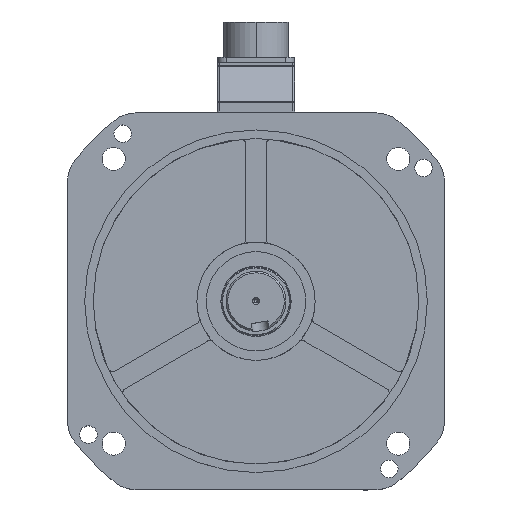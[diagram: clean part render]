
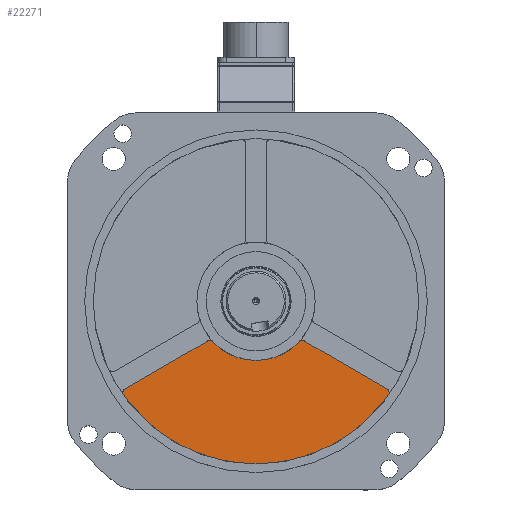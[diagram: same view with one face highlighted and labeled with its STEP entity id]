
A CAD part, top view. The second image highlights one B-rep face of the part: STEP entity #22271.
In plain terms, the highlighted planar face has unit normal (0, 0, 1).
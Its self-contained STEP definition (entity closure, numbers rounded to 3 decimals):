
#617 = AXIS2_PLACEMENT_3D ( 'NONE', #17883, #65663, #22761 ) ;
#1577 = VERTEX_POINT ( 'NONE', #6507 ) ;
#1846 = AXIS2_PLACEMENT_3D ( 'NONE', #44258, #33773, #54715 ) ;
#2157 = DIRECTION ( 'NONE',  ( 1., 0., 0. ) ) ;
#2696 = ORIENTED_EDGE ( 'NONE', *, *, #30165, .F. ) ;
#4531 = DIRECTION ( 'NONE',  ( 0., 0., 1. ) ) ;
#5403 = AXIS2_PLACEMENT_3D ( 'NONE', #5510, #57484, #36204 ) ;
#5436 = CIRCLE ( 'NONE', #8741, 34.5 ) ;
#5510 = CARTESIAN_POINT ( 'NONE',  ( 74.792, 53.574, 16. ) ) ;
#6034 = CARTESIAN_POINT ( 'NONE',  ( -3., 5.196, 16. ) ) ;
#6507 = CARTESIAN_POINT ( 'NONE',  ( 77.231, 55.321, 16. ) ) ;
#6951 = EDGE_CURVE ( 'NONE', #67619, #65478, #23245, .T. ) ;
#7094 = DIRECTION ( 'NONE',  ( 1., 0., 0. ) ) ;
#7369 = VERTEX_POINT ( 'NONE', #58403 ) ;
#8741 = AXIS2_PLACEMENT_3D ( 'NONE', #8827, #41967, #24845 ) ;
#8827 = CARTESIAN_POINT ( 'NONE',  ( 0., 0., 16. ) ) ;
#9075 = DIRECTION ( 'NONE',  ( 1., 0., 0. ) ) ;
#9269 = ORIENTED_EDGE ( 'NONE', *, *, #42319, .T. ) ;
#10398 = CARTESIAN_POINT ( 'NONE',  ( -76.292, 50.976, 16. ) ) ;
#12391 = DIRECTION ( 'NONE',  ( -0.866, 0.5, 0. ) ) ;
#12556 = VERTEX_POINT ( 'NONE', #28682 ) ;
#17543 = ORIENTED_EDGE ( 'NONE', *, *, #33938, .T. ) ;
#17883 = CARTESIAN_POINT ( 'NONE',  ( -74.792, 53.574, 16. ) ) ;
#18409 = VERTEX_POINT ( 'NONE', #10398 ) ;
#19083 = CARTESIAN_POINT ( 'NONE',  ( 27.027, 25.996, 16. ) ) ;
#21956 = PLANE ( 'NONE',  #1846 ) ;
#22271 = ADVANCED_FACE ( 'NONE', ( #49136 ), #21956, .T. ) ;
#22761 = DIRECTION ( 'NONE',  ( 1., 0., 0. ) ) ;
#23245 = CIRCLE ( 'NONE', #46658, 3. ) ;
#23412 = CARTESIAN_POINT ( 'NONE',  ( 0., 0., 16. ) ) ;
#23530 = CARTESIAN_POINT ( 'NONE',  ( 3., 5.196, 16. ) ) ;
#23843 = CIRCLE ( 'NONE', #66180, 3. ) ;
#24450 = EDGE_LOOP ( 'NONE', ( #26971, #45647, #67864, #9269, #2696, #29594, #41729, #17543, #27405 ) ) ;
#24845 = DIRECTION ( 'NONE',  ( 1., 0., 0. ) ) ;
#26755 = VECTOR ( 'NONE', #12391, 1000. ) ;
#26971 = ORIENTED_EDGE ( 'NONE', *, *, #55717, .T. ) ;
#27405 = ORIENTED_EDGE ( 'NONE', *, *, #41071, .T. ) ;
#28682 = CARTESIAN_POINT ( 'NONE',  ( 76.292, 50.976, 16. ) ) ;
#29406 = DIRECTION ( 'NONE',  ( 0., 0., 1. ) ) ;
#29594 = ORIENTED_EDGE ( 'NONE', *, *, #6951, .T. ) ;
#29905 = DIRECTION ( 'NONE',  ( 0., 0., 1. ) ) ;
#30165 = EDGE_CURVE ( 'NONE', #67619, #18409, #66449, .T. ) ;
#32543 = LINE ( 'NONE', #6034, #38282 ) ;
#33773 = DIRECTION ( 'NONE',  ( 0., 0., 1. ) ) ;
#33938 = EDGE_CURVE ( 'NONE', #43581, #68211, #23843, .T. ) ;
#35922 = CARTESIAN_POINT ( 'NONE',  ( -27.027, 25.996, 16. ) ) ;
#36204 = DIRECTION ( 'NONE',  ( 1., 0., 0. ) ) ;
#38282 = VECTOR ( 'NONE', #48918, 1000. ) ;
#39586 = CARTESIAN_POINT ( 'NONE',  ( -28.527, 23.398, 16. ) ) ;
#40852 = DIRECTION ( 'NONE',  ( 0., 0., -1. ) ) ;
#40898 = CIRCLE ( 'NONE', #68737, 95. ) ;
#41071 = EDGE_CURVE ( 'NONE', #68211, #12556, #32543, .T. ) ;
#41729 = ORIENTED_EDGE ( 'NONE', *, *, #46972, .F. ) ;
#41967 = DIRECTION ( 'NONE',  ( 0., 0., 1. ) ) ;
#42319 = EDGE_CURVE ( 'NONE', #7369, #18409, #61835, .T. ) ;
#43581 = VERTEX_POINT ( 'NONE', #47270 ) ;
#44258 = CARTESIAN_POINT ( 'NONE',  ( 0., 0., 16. ) ) ;
#45647 = ORIENTED_EDGE ( 'NONE', *, *, #53232, .F. ) ;
#46658 = AXIS2_PLACEMENT_3D ( 'NONE', #35922, #4531, #9075 ) ;
#46894 = EDGE_CURVE ( 'NONE', #63347, #7369, #54405, .T. ) ;
#46972 = EDGE_CURVE ( 'NONE', #43581, #65478, #5436, .T. ) ;
#47270 = CARTESIAN_POINT ( 'NONE',  ( 24.865, 23.917, 16. ) ) ;
#48823 = AXIS2_PLACEMENT_3D ( 'NONE', #66033, #29406, #7094 ) ;
#48918 = DIRECTION ( 'NONE',  ( 0.866, 0.5, 0. ) ) ;
#49136 = FACE_OUTER_BOUND ( 'NONE', #24450, .T. ) ;
#49898 = CIRCLE ( 'NONE', #5403, 3. ) ;
#51179 = DIRECTION ( 'NONE',  ( 1., 0., 0. ) ) ;
#53232 = EDGE_CURVE ( 'NONE', #63347, #1577, #40898, .T. ) ;
#54405 = CIRCLE ( 'NONE', #48823, 3. ) ;
#54715 = DIRECTION ( 'NONE',  ( 1., 0., 0. ) ) ;
#55717 = EDGE_CURVE ( 'NONE', #12556, #1577, #49898, .T. ) ;
#56905 = CARTESIAN_POINT ( 'NONE',  ( 28.527, 23.398, 16. ) ) ;
#57484 = DIRECTION ( 'NONE',  ( 0., 0., 1. ) ) ;
#58292 = CARTESIAN_POINT ( 'NONE',  ( -77.231, 55.321, 16. ) ) ;
#58403 = CARTESIAN_POINT ( 'NONE',  ( -77.792, 53.574, 16. ) ) ;
#61835 = CIRCLE ( 'NONE', #617, 3. ) ;
#63347 = VERTEX_POINT ( 'NONE', #58292 ) ;
#63733 = CARTESIAN_POINT ( 'NONE',  ( -24.865, 23.917, 16. ) ) ;
#65478 = VERTEX_POINT ( 'NONE', #63733 ) ;
#65663 = DIRECTION ( 'NONE',  ( 0., 0., 1. ) ) ;
#66033 = CARTESIAN_POINT ( 'NONE',  ( -74.792, 53.574, 16. ) ) ;
#66180 = AXIS2_PLACEMENT_3D ( 'NONE', #19083, #29905, #51179 ) ;
#66449 = LINE ( 'NONE', #23530, #26755 ) ;
#67619 = VERTEX_POINT ( 'NONE', #39586 ) ;
#67864 = ORIENTED_EDGE ( 'NONE', *, *, #46894, .T. ) ;
#68211 = VERTEX_POINT ( 'NONE', #56905 ) ;
#68737 = AXIS2_PLACEMENT_3D ( 'NONE', #23412, #40852, #2157 ) ;
